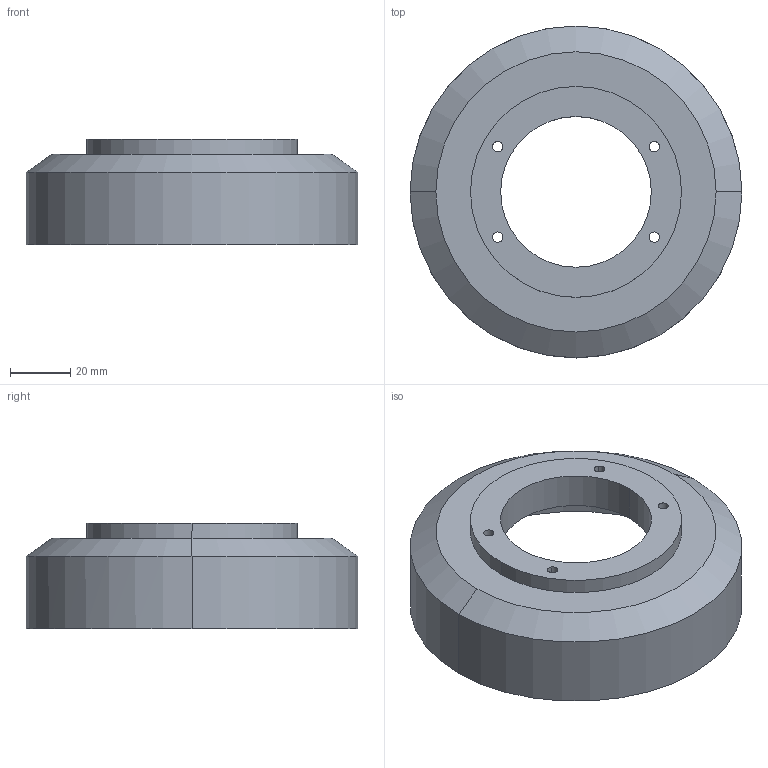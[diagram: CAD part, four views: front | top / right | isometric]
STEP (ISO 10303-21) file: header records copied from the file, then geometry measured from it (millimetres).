
FILE_DESCRIPTION((''),'2;1');
FILE_NAME('ART1BOT','2022-08-24T09:18:00',('domen.bizjak'),('Audax d.o.o.'),'CREO PARAMETRIC BY PTC INC, 2021184','CREO PARAMETRIC BY PTC INC, 2021184','');
FILE_SCHEMA(('AP242_MANAGED_MODEL_BASED_3D_ENGINEERING_MIM_LF { 1 0 10303 442 1 1 4 }'));
Length unit declared in the file: millimetre
Products named in the file (1): ART1BOT
Bounding box: 110.14 x 110.14 x 35 mm (x, y, z)
Volume: 80121.8 mm3; surface area: 40443.2 mm2
Topology: 1 solids, 1 shells, 454 faces, 1346 edges, 902 vertices
Faces by surface type: bspline 400, plane 37, cylinder 15, cone 2
Entity records: 32634 total; most frequent: CARTESIAN_POINT 14229, ORIENTED_EDGE 2686, PRESENTATION_STYLE_ASSIGNMENT 1780, STYLED_ITEM 1353, CURVE_STYLE 1348, EDGE_CURVE 1343, B_SPLINE_CURVE_WITH_KNOTS 1203, VERTEX_POINT 896
